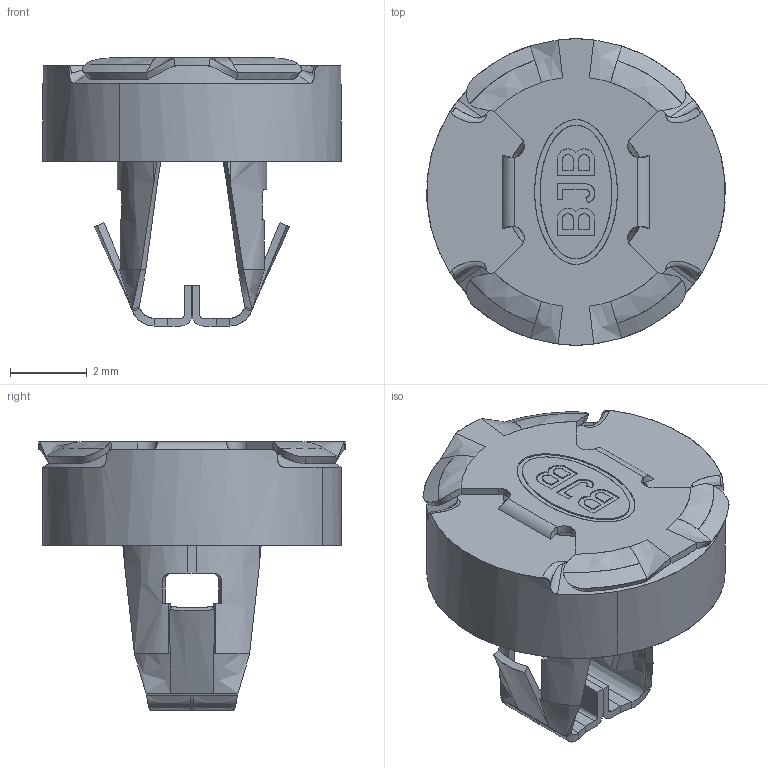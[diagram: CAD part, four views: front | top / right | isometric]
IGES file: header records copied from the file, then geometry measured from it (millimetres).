
Global section: file name: C:\coretechnologie2012\in/01VY70XY07.igs; native system: CT CoreTechnologie 3D Evolution; preprocessor: 2006; author: assmuth; date: 1130911.075043; units: millimetre
Bounding box: 7.79 x 8 x 7 mm (x, y, z)
Surface area: 286.1 mm2 (no closed solid volume)
Topology: 0 solids, 0 shells, 288 faces, 1538 edges, 1537 vertices
Faces by surface type: bspline 288
